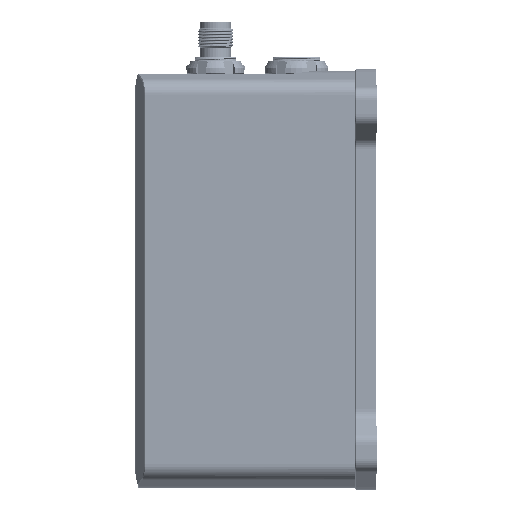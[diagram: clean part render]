
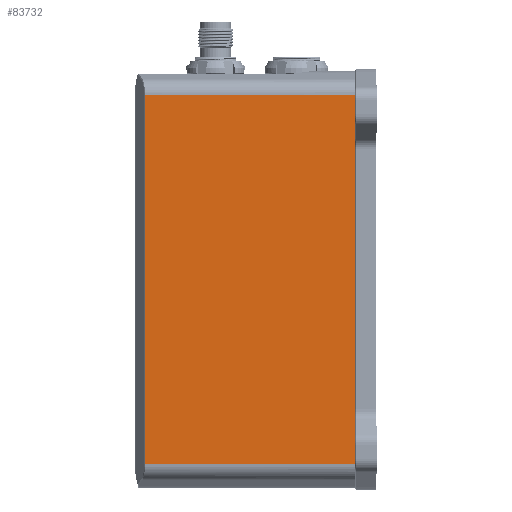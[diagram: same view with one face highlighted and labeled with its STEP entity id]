
A CAD part, left-side view. The second image highlights one B-rep face of the part: STEP entity #83732.
In plain terms, the highlighted planar face has unit normal (-1, 0, 0).
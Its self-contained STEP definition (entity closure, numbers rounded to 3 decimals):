
#1600 = CARTESIAN_POINT ( 'NONE',  ( -41., 75., -79.004 ) ) ;
#6178 = EDGE_CURVE ( 'NONE', #159876, #88230, #169281, .T. ) ;
#7811 = DIRECTION ( 'NONE',  ( 0., 0., 1. ) ) ;
#8341 = LINE ( 'NONE', #226336, #110317 ) ;
#20875 = DIRECTION ( 'NONE',  ( 0., 0., -1. ) ) ;
#22134 = LINE ( 'NONE', #27119, #112176 ) ;
#26771 = CARTESIAN_POINT ( 'NONE',  ( -41., 7., -79.004 ) ) ;
#27119 = CARTESIAN_POINT ( 'NONE',  ( -41., 7., 25. ) ) ;
#33793 = ORIENTED_EDGE ( 'NONE', *, *, #56243, .T. ) ;
#50686 = DIRECTION ( 'NONE',  ( 0., 0., 1. ) ) ;
#56243 = EDGE_CURVE ( 'NONE', #228731, #88230, #22134, .T. ) ;
#67352 = VECTOR ( 'NONE', #81480, 1000. ) ;
#79897 = ORIENTED_EDGE ( 'NONE', *, *, #6178, .F. ) ;
#81480 = DIRECTION ( 'NONE',  ( 0., -1., 0. ) ) ;
#83732 = ADVANCED_FACE ( 'NONE', ( #193992 ), #154334, .F. ) ;
#88230 = VERTEX_POINT ( 'NONE', #168809 ) ;
#100896 = VERTEX_POINT ( 'NONE', #210806 ) ;
#110317 = VECTOR ( 'NONE', #111442, 1000. ) ;
#111442 = DIRECTION ( 'NONE',  ( 0., 1., 0. ) ) ;
#112176 = VECTOR ( 'NONE', #7811, 1000. ) ;
#115410 = ORIENTED_EDGE ( 'NONE', *, *, #207603, .F. ) ;
#135719 = DIRECTION ( 'NONE',  ( 1., 0., 0. ) ) ;
#154334 = PLANE ( 'NONE',  #246200 ) ;
#159876 = VERTEX_POINT ( 'NONE', #197930 ) ;
#168809 = CARTESIAN_POINT ( 'NONE',  ( -41., 7., 35.004 ) ) ;
#169281 = LINE ( 'NONE', #196355, #67352 ) ;
#177244 = VECTOR ( 'NONE', #50686, 1000. ) ;
#193366 = EDGE_CURVE ( 'NONE', #228731, #100896, #8341, .T. ) ;
#193992 = FACE_OUTER_BOUND ( 'NONE', #235884, .T. ) ;
#196355 = CARTESIAN_POINT ( 'NONE',  ( -41., 75., 35.004 ) ) ;
#197930 = CARTESIAN_POINT ( 'NONE',  ( -41., 71.8, 35.004 ) ) ;
#207603 = EDGE_CURVE ( 'NONE', #100896, #159876, #228174, .T. ) ;
#208505 = ORIENTED_EDGE ( 'NONE', *, *, #193366, .F. ) ;
#210806 = CARTESIAN_POINT ( 'NONE',  ( -41., 71.8, -79.004 ) ) ;
#223356 = CARTESIAN_POINT ( 'NONE',  ( -41., 71.8, -79.004 ) ) ;
#226336 = CARTESIAN_POINT ( 'NONE',  ( -41., 75., -79.004 ) ) ;
#228174 = LINE ( 'NONE', #223356, #177244 ) ;
#228731 = VERTEX_POINT ( 'NONE', #26771 ) ;
#235884 = EDGE_LOOP ( 'NONE', ( #115410, #208505, #33793, #79897 ) ) ;
#246200 = AXIS2_PLACEMENT_3D ( 'NONE', #1600, #135719, #20875 ) ;
